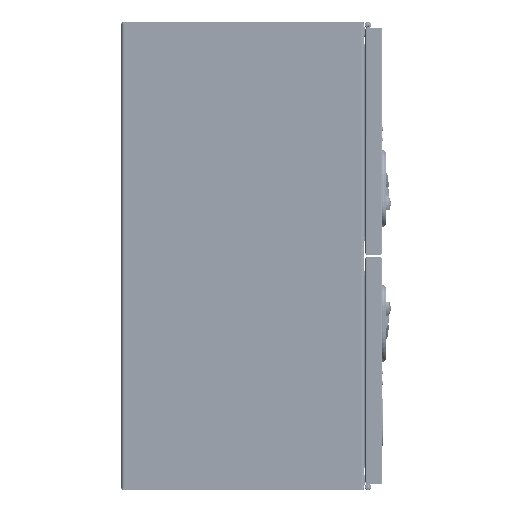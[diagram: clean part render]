
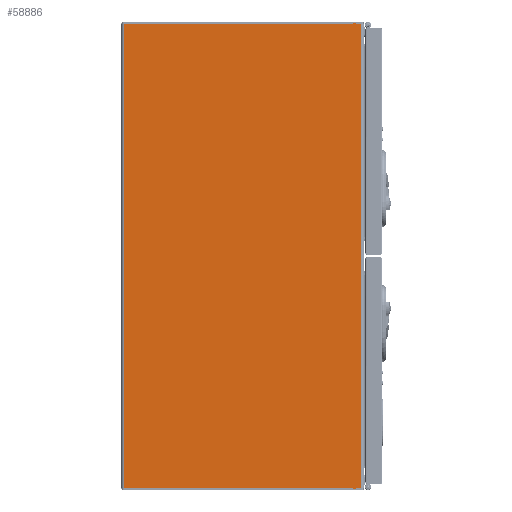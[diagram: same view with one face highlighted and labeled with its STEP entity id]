
A CAD part, front view. The second image highlights one B-rep face of the part: STEP entity #58886.
In plain terms, the highlighted planar face has unit normal (0, -1, 0).
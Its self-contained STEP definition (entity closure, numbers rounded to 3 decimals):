
#437 = ORIENTED_EDGE ( 'NONE', *, *, #95885, .F. ) ;
#524 = LINE ( 'NONE', #37887, #59791 ) ;
#597 = ORIENTED_EDGE ( 'NONE', *, *, #7597, .F. ) ;
#3913 = DIRECTION ( 'NONE',  ( 0., 0., -1. ) ) ;
#5133 = DIRECTION ( 'NONE',  ( 0., 0., 1. ) ) ;
#5297 = ORIENTED_EDGE ( 'NONE', *, *, #80403, .F. ) ;
#7516 = VECTOR ( 'NONE', #49961, 1000. ) ;
#7597 = EDGE_CURVE ( 'NONE', #81952, #55920, #12454, .T. ) ;
#9331 = VERTEX_POINT ( 'NONE', #59709 ) ;
#12454 = LINE ( 'NONE', #21379, #74015 ) ;
#13770 = VERTEX_POINT ( 'NONE', #106818 ) ;
#14296 = CARTESIAN_POINT ( 'NONE',  ( 218., -250., 447. ) ) ;
#14855 = LINE ( 'NONE', #73533, #84329 ) ;
#15295 = VECTOR ( 'NONE', #98272, 1000. ) ;
#15412 = ORIENTED_EDGE ( 'NONE', *, *, #93620, .F. ) ;
#15514 = VERTEX_POINT ( 'NONE', #47722 ) ;
#17289 = EDGE_CURVE ( 'NONE', #51118, #15514, #83417, .T. ) ;
#18075 = CARTESIAN_POINT ( 'NONE',  ( 213., -250., 447. ) ) ;
#19577 = VECTOR ( 'NONE', #34200, 1000. ) ;
#21379 = CARTESIAN_POINT ( 'NONE',  ( 213., -250., -447. ) ) ;
#23539 = DIRECTION ( 'NONE',  ( 0., -1., 0. ) ) ;
#27320 = ORIENTED_EDGE ( 'NONE', *, *, #44774, .T. ) ;
#28456 = DIRECTION ( 'NONE',  ( 1., 0., 0. ) ) ;
#31048 = DIRECTION ( 'NONE',  ( -1., 0., 0. ) ) ;
#31113 = ORIENTED_EDGE ( 'NONE', *, *, #17289, .F. ) ;
#31253 = EDGE_CURVE ( 'NONE', #106632, #36634, #39134, .T. ) ;
#34200 = DIRECTION ( 'NONE',  ( 1., 0., 0. ) ) ;
#36634 = VERTEX_POINT ( 'NONE', #99573 ) ;
#37459 = DIRECTION ( 'NONE',  ( 1., 0., 0. ) ) ;
#37887 = CARTESIAN_POINT ( 'NONE',  ( -228., -250., -450. ) ) ;
#39134 = LINE ( 'NONE', #73246, #56718 ) ;
#39704 = DIRECTION ( 'NONE',  ( 0., 0., -1. ) ) ;
#40244 = FACE_OUTER_BOUND ( 'NONE', #108389, .T. ) ;
#41492 = VECTOR ( 'NONE', #5133, 1000. ) ;
#43093 = ORIENTED_EDGE ( 'NONE', *, *, #43765, .F. ) ;
#43626 = LINE ( 'NONE', #77735, #71100 ) ;
#43765 = EDGE_CURVE ( 'NONE', #70625, #13770, #43626, .T. ) ;
#44467 = CARTESIAN_POINT ( 'NONE',  ( 213., -250., 448.5 ) ) ;
#44756 = VERTEX_POINT ( 'NONE', #79289 ) ;
#44774 = EDGE_CURVE ( 'NONE', #78478, #108545, #78185, .T. ) ;
#47252 = CARTESIAN_POINT ( 'NONE',  ( 228., -250., -447. ) ) ;
#47356 = CARTESIAN_POINT ( 'NONE',  ( 218., -250., -447. ) ) ;
#47722 = CARTESIAN_POINT ( 'NONE',  ( 228., -250., 447. ) ) ;
#48874 = VECTOR ( 'NONE', #78684, 1000. ) ;
#49961 = DIRECTION ( 'NONE',  ( 0., 0., 1. ) ) ;
#51118 = VERTEX_POINT ( 'NONE', #14296 ) ;
#54184 = AXIS2_PLACEMENT_3D ( 'NONE', #64879, #23539, #39704 ) ;
#55920 = VERTEX_POINT ( 'NONE', #74962 ) ;
#56718 = VECTOR ( 'NONE', #37459, 1000. ) ;
#58886 = ADVANCED_FACE ( 'NONE', ( #40244 ), #100618, .T. ) ;
#58898 = LINE ( 'NONE', #18075, #7516 ) ;
#59709 = CARTESIAN_POINT ( 'NONE',  ( -228., -250., -447. ) ) ;
#59791 = VECTOR ( 'NONE', #70334, 1000. ) ;
#60998 = DIRECTION ( 'NONE',  ( 1., 0., 0. ) ) ;
#61570 = ORIENTED_EDGE ( 'NONE', *, *, #87895, .F. ) ;
#62845 = ORIENTED_EDGE ( 'NONE', *, *, #64899, .T. ) ;
#64879 = CARTESIAN_POINT ( 'NONE',  ( -234., -250., -450. ) ) ;
#64899 = EDGE_CURVE ( 'NONE', #9331, #55920, #71422, .T. ) ;
#67778 = CARTESIAN_POINT ( 'NONE',  ( 231., -250., 447. ) ) ;
#70334 = DIRECTION ( 'NONE',  ( 0., 0., 1. ) ) ;
#70536 = ORIENTED_EDGE ( 'NONE', *, *, #79214, .T. ) ;
#70625 = VERTEX_POINT ( 'NONE', #106798 ) ;
#71100 = VECTOR ( 'NONE', #60998, 1000. ) ;
#71422 = LINE ( 'NONE', #103843, #48874 ) ;
#72977 = CARTESIAN_POINT ( 'NONE',  ( 213., -250., -448.5 ) ) ;
#73246 = CARTESIAN_POINT ( 'NONE',  ( 213., -250., 448.5 ) ) ;
#73533 = CARTESIAN_POINT ( 'NONE',  ( 218., -250., -448.5 ) ) ;
#74015 = VECTOR ( 'NONE', #80591, 1000. ) ;
#74779 = VECTOR ( 'NONE', #28456, 1000. ) ;
#74962 = CARTESIAN_POINT ( 'NONE',  ( 213., -250., -447. ) ) ;
#77735 = CARTESIAN_POINT ( 'NONE',  ( 231., -250., 447. ) ) ;
#78185 = LINE ( 'NONE', #104991, #74779 ) ;
#78478 = VERTEX_POINT ( 'NONE', #110487 ) ;
#78684 = DIRECTION ( 'NONE',  ( 1., 0., 0. ) ) ;
#78766 = EDGE_CURVE ( 'NONE', #44756, #81952, #14855, .T. ) ;
#79214 = EDGE_CURVE ( 'NONE', #108545, #15514, #91706, .T. ) ;
#79289 = CARTESIAN_POINT ( 'NONE',  ( 218., -250., -448.5 ) ) ;
#80403 = EDGE_CURVE ( 'NONE', #78478, #44756, #106054, .T. ) ;
#80444 = CARTESIAN_POINT ( 'NONE',  ( 218., -250., 447. ) ) ;
#80591 = DIRECTION ( 'NONE',  ( 0., 0., 1. ) ) ;
#81952 = VERTEX_POINT ( 'NONE', #72977 ) ;
#83417 = LINE ( 'NONE', #67778, #19577 ) ;
#84329 = VECTOR ( 'NONE', #31048, 1000. ) ;
#85819 = ORIENTED_EDGE ( 'NONE', *, *, #78766, .F. ) ;
#87895 = EDGE_CURVE ( 'NONE', #36634, #51118, #97779, .T. ) ;
#89152 = VECTOR ( 'NONE', #3913, 1000. ) ;
#91706 = LINE ( 'NONE', #99532, #41492 ) ;
#93620 = EDGE_CURVE ( 'NONE', #13770, #106632, #58898, .T. ) ;
#95885 = EDGE_CURVE ( 'NONE', #9331, #70625, #524, .T. ) ;
#96178 = ORIENTED_EDGE ( 'NONE', *, *, #31253, .F. ) ;
#97779 = LINE ( 'NONE', #80444, #89152 ) ;
#98272 = DIRECTION ( 'NONE',  ( 0., 0., -1. ) ) ;
#99532 = CARTESIAN_POINT ( 'NONE',  ( 228., -250., -450. ) ) ;
#99573 = CARTESIAN_POINT ( 'NONE',  ( 218., -250., 448.5 ) ) ;
#100618 = PLANE ( 'NONE',  #54184 ) ;
#103843 = CARTESIAN_POINT ( 'NONE',  ( -234., -250., -447. ) ) ;
#104991 = CARTESIAN_POINT ( 'NONE',  ( -234., -250., -447. ) ) ;
#106054 = LINE ( 'NONE', #47356, #15295 ) ;
#106632 = VERTEX_POINT ( 'NONE', #44467 ) ;
#106798 = CARTESIAN_POINT ( 'NONE',  ( -228., -250., 447. ) ) ;
#106818 = CARTESIAN_POINT ( 'NONE',  ( 213., -250., 447. ) ) ;
#108389 = EDGE_LOOP ( 'NONE', ( #43093, #437, #62845, #597, #85819, #5297, #27320, #70536, #31113, #61570, #96178, #15412 ) ) ;
#108545 = VERTEX_POINT ( 'NONE', #47252 ) ;
#110487 = CARTESIAN_POINT ( 'NONE',  ( 218., -250., -447. ) ) ;
